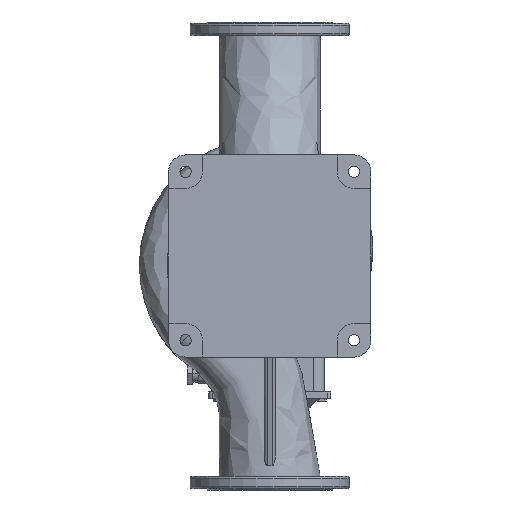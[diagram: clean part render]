
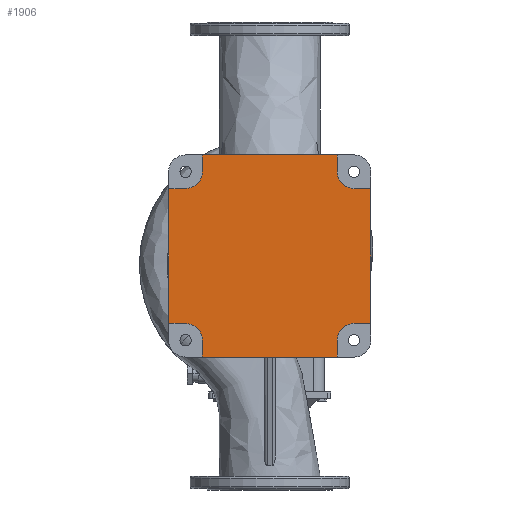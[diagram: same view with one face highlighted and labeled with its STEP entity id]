
A CAD part, front view. The second image highlights one B-rep face of the part: STEP entity #1906.
In plain terms, the highlighted planar face has unit normal (0, -1, 0).
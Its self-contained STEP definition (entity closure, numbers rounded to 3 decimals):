
#1053=PLANE('',#27891);
#1906=ADVANCED_FACE('',(#3945),#1053,.F.);
#3945=FACE_OUTER_BOUND('',#5507,.T.);
#5507=EDGE_LOOP('',(#13276,#13277,#13278,#13279,#13280,#13281,#13282,#13283,
#13284,#13285,#13286,#13287,#13288,#13289,#13290,#13291));
#7267=LINE('',#46198,#8984);
#7274=LINE('',#46211,#8991);
#7279=LINE('',#46220,#8996);
#7284=LINE('',#46230,#9001);
#7292=LINE('',#46251,#9009);
#7293=LINE('',#46253,#9010);
#7296=LINE('',#46261,#9013);
#7297=LINE('',#46263,#9014);
#7300=LINE('',#46271,#9017);
#7301=LINE('',#46273,#9018);
#7304=LINE('',#46281,#9021);
#7305=LINE('',#46283,#9022);
#8984=VECTOR('',#31626,1.);
#8991=VECTOR('',#31637,1.);
#8996=VECTOR('',#31646,1.);
#9001=VECTOR('',#31655,1.);
#9009=VECTOR('',#31677,1.);
#9010=VECTOR('',#31680,1.);
#9013=VECTOR('',#31689,1.);
#9014=VECTOR('',#31692,1.);
#9017=VECTOR('',#31701,1.);
#9018=VECTOR('',#31704,1.);
#9021=VECTOR('',#31713,1.);
#9022=VECTOR('',#31716,1.);
#10778=CIRCLE('',#27875,36.);
#10779=CIRCLE('',#27879,36.);
#10780=CIRCLE('',#27883,36.);
#10781=CIRCLE('',#27887,36.);
#13276=ORIENTED_EDGE('',*,*,#23271,.T.);
#13277=ORIENTED_EDGE('',*,*,#23289,.T.);
#13278=ORIENTED_EDGE('',*,*,#23245,.T.);
#13279=ORIENTED_EDGE('',*,*,#23288,.T.);
#13280=ORIENTED_EDGE('',*,*,#23286,.T.);
#13281=ORIENTED_EDGE('',*,*,#23284,.T.);
#13282=ORIENTED_EDGE('',*,*,#23252,.T.);
#13283=ORIENTED_EDGE('',*,*,#23283,.T.);
#13284=ORIENTED_EDGE('',*,*,#23281,.T.);
#13285=ORIENTED_EDGE('',*,*,#23279,.T.);
#13286=ORIENTED_EDGE('',*,*,#23257,.T.);
#13287=ORIENTED_EDGE('',*,*,#23278,.T.);
#13288=ORIENTED_EDGE('',*,*,#23276,.T.);
#13289=ORIENTED_EDGE('',*,*,#23274,.T.);
#13290=ORIENTED_EDGE('',*,*,#23262,.T.);
#13291=ORIENTED_EDGE('',*,*,#23273,.T.);
#20491=VERTEX_POINT('',#46197);
#20492=VERTEX_POINT('',#46199);
#20495=VERTEX_POINT('',#46210);
#20496=VERTEX_POINT('',#46212);
#20497=VERTEX_POINT('',#46219);
#20498=VERTEX_POINT('',#46221);
#20499=VERTEX_POINT('',#46228);
#20501=VERTEX_POINT('',#46231);
#20505=VERTEX_POINT('',#46246);
#20506=VERTEX_POINT('',#46248);
#20507=VERTEX_POINT('',#46254);
#20508=VERTEX_POINT('',#46258);
#20509=VERTEX_POINT('',#46264);
#20510=VERTEX_POINT('',#46268);
#20511=VERTEX_POINT('',#46274);
#20512=VERTEX_POINT('',#46278);
#23245=EDGE_CURVE('',#20492,#20491,#7267,.T.);
#23252=EDGE_CURVE('',#20496,#20495,#7274,.T.);
#23257=EDGE_CURVE('',#20498,#20497,#7279,.T.);
#23262=EDGE_CURVE('',#20501,#20499,#7284,.T.);
#23271=EDGE_CURVE('',#20506,#20505,#10778,.T.);
#23273=EDGE_CURVE('',#20499,#20506,#7292,.T.);
#23274=EDGE_CURVE('',#20507,#20501,#7293,.T.);
#23276=EDGE_CURVE('',#20508,#20507,#10779,.T.);
#23278=EDGE_CURVE('',#20497,#20508,#7296,.T.);
#23279=EDGE_CURVE('',#20509,#20498,#7297,.T.);
#23281=EDGE_CURVE('',#20510,#20509,#10780,.T.);
#23283=EDGE_CURVE('',#20495,#20510,#7300,.T.);
#23284=EDGE_CURVE('',#20511,#20496,#7301,.T.);
#23286=EDGE_CURVE('',#20512,#20511,#10781,.T.);
#23288=EDGE_CURVE('',#20491,#20512,#7304,.T.);
#23289=EDGE_CURVE('',#20505,#20492,#7305,.T.);
#27875=AXIS2_PLACEMENT_3D('',#46247,#31672,#31673);
#27879=AXIS2_PLACEMENT_3D('',#46257,#31684,#31685);
#27883=AXIS2_PLACEMENT_3D('',#46267,#31696,#31697);
#27887=AXIS2_PLACEMENT_3D('',#46277,#31708,#31709);
#27891=AXIS2_PLACEMENT_3D('',#46285,#31719,#31720);
#31626=DIRECTION('',(1.,0.,0.));
#31637=DIRECTION('',(0.,0.,1.));
#31646=DIRECTION('',(-1.,0.,0.));
#31655=DIRECTION('',(0.,0.,-1.));
#31672=DIRECTION('',(0.,1.,0.));
#31673=DIRECTION('',(0.,0.,1.));
#31677=DIRECTION('',(1.,0.,0.));
#31680=DIRECTION('',(-1.,0.,0.));
#31684=DIRECTION('',(0.,1.,0.));
#31685=DIRECTION('',(0.,0.,1.));
#31689=DIRECTION('',(0.,0.,-1.));
#31692=DIRECTION('',(0.,0.,1.));
#31696=DIRECTION('',(0.,1.,0.));
#31697=DIRECTION('',(0.,0.,1.));
#31701=DIRECTION('',(-1.,0.,0.));
#31704=DIRECTION('',(1.,0.,0.));
#31708=DIRECTION('',(0.,1.,0.));
#31709=DIRECTION('',(0.,0.,1.));
#31713=DIRECTION('',(0.,0.,1.));
#31716=DIRECTION('',(0.,0.,-1.));
#31719=DIRECTION('',(0.,1.,0.));
#31720=DIRECTION('',(0.,0.,-1.));
#46197=CARTESIAN_POINT('',(144.,-275.,-216.));
#46198=CARTESIAN_POINT('',(144.,-275.,-216.));
#46199=CARTESIAN_POINT('',(-144.,-275.,-216.));
#46210=CARTESIAN_POINT('',(216.,-275.,144.));
#46211=CARTESIAN_POINT('',(216.,-275.,144.));
#46212=CARTESIAN_POINT('',(216.,-275.,-144.));
#46219=CARTESIAN_POINT('',(-144.,-275.,216.));
#46220=CARTESIAN_POINT('',(-144.,-275.,216.));
#46221=CARTESIAN_POINT('',(144.,-275.,216.));
#46228=CARTESIAN_POINT('',(-216.,-275.,-144.));
#46230=CARTESIAN_POINT('',(-216.,-275.,-144.));
#46231=CARTESIAN_POINT('',(-216.,-275.,144.));
#46246=CARTESIAN_POINT('',(-144.,-275.,-180.));
#46247=CARTESIAN_POINT('',(-180.,-275.,-180.));
#46248=CARTESIAN_POINT('',(-180.,-275.,-144.));
#46251=CARTESIAN_POINT('',(-180.,-275.,-144.));
#46253=CARTESIAN_POINT('',(-180.,-275.,144.));
#46254=CARTESIAN_POINT('',(-180.,-275.,144.));
#46257=CARTESIAN_POINT('',(-180.,-275.,180.));
#46258=CARTESIAN_POINT('',(-144.,-275.,180.));
#46261=CARTESIAN_POINT('',(-144.,-275.,180.));
#46263=CARTESIAN_POINT('',(144.,-275.,180.));
#46264=CARTESIAN_POINT('',(144.,-275.,180.));
#46267=CARTESIAN_POINT('',(180.,-275.,180.));
#46268=CARTESIAN_POINT('',(180.,-275.,144.));
#46271=CARTESIAN_POINT('',(180.,-275.,144.));
#46273=CARTESIAN_POINT('',(180.,-275.,-144.));
#46274=CARTESIAN_POINT('',(180.,-275.,-144.));
#46277=CARTESIAN_POINT('',(180.,-275.,-180.));
#46278=CARTESIAN_POINT('',(144.,-275.,-180.));
#46281=CARTESIAN_POINT('',(144.,-275.,-180.));
#46283=CARTESIAN_POINT('',(-144.,-275.,-180.));
#46285=CARTESIAN_POINT('',(-180.,-275.,-180.));
